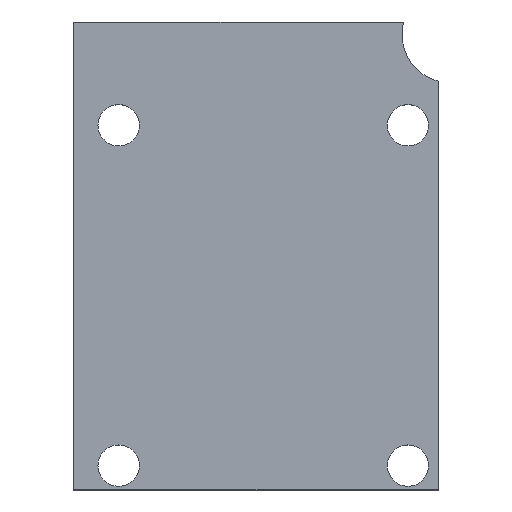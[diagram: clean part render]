
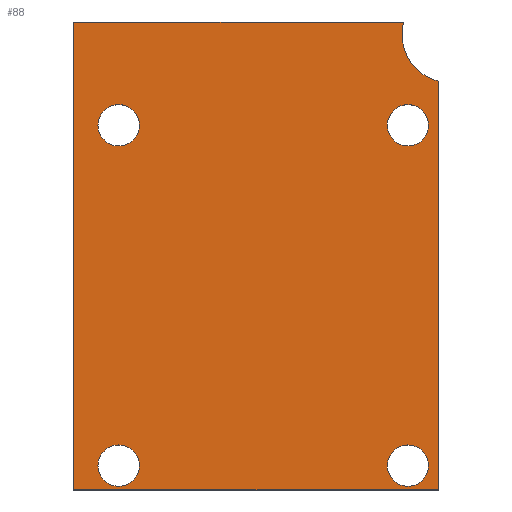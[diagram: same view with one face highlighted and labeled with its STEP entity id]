
A CAD part, top view. The second image highlights one B-rep face of the part: STEP entity #88.
In plain terms, the highlighted planar face has unit normal (0, 0, 1).
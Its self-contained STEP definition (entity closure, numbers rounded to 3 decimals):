
#24 = VERTEX_POINT('',#25);
#25 = CARTESIAN_POINT('',(145.5,136.,43.2));
#40 = VERTEX_POINT('',#41);
#41 = CARTESIAN_POINT('',(145.5,174.5,43.2));
#47 = EDGE_CURVE('',#24,#40,#48,.T.);
#48 = LINE('',#49,#50);
#49 = CARTESIAN_POINT('',(145.5,136.,43.2));
#50 = VECTOR('',#51,1.);
#51 = DIRECTION('',(-0.,1.,0.));
#70 = EDGE_CURVE('',#24,#71,#73,.T.);
#71 = VERTEX_POINT('',#72);
#72 = CARTESIAN_POINT('',(175.5,136.,43.2));
#73 = LINE('',#74,#75);
#74 = CARTESIAN_POINT('',(145.5,136.,43.2));
#75 = VECTOR('',#76,1.);
#76 = DIRECTION('',(1.,0.,-0.));
#88 = ADVANCED_FACE('',(#89,#116,#127,#138,#149),#160,.T.);
#89 = FACE_BOUND('',#90,.T.);
#90 = EDGE_LOOP('',(#91,#99,#100,#101,#109));
#91 = ORIENTED_EDGE('',*,*,#92,.F.);
#92 = EDGE_CURVE('',#40,#93,#95,.T.);
#93 = VERTEX_POINT('',#94);
#94 = CARTESIAN_POINT('',(172.627,174.5,43.2));
#95 = LINE('',#96,#97);
#96 = CARTESIAN_POINT('',(145.5,174.5,43.2));
#97 = VECTOR('',#98,1.);
#98 = DIRECTION('',(1.,0.,-0.));
#99 = ORIENTED_EDGE('',*,*,#47,.F.);
#100 = ORIENTED_EDGE('',*,*,#70,.T.);
#101 = ORIENTED_EDGE('',*,*,#102,.T.);
#102 = EDGE_CURVE('',#71,#103,#105,.T.);
#103 = VERTEX_POINT('',#104);
#104 = CARTESIAN_POINT('',(175.5,169.627,43.2));
#105 = LINE('',#106,#107);
#106 = CARTESIAN_POINT('',(175.5,136.,43.2));
#107 = VECTOR('',#108,1.);
#108 = DIRECTION('',(-0.,1.,0.));
#109 = ORIENTED_EDGE('',*,*,#110,.F.);
#110 = EDGE_CURVE('',#93,#103,#111,.T.);
#111 = CIRCLE('',#112,4.);
#112 = AXIS2_PLACEMENT_3D('',#113,#114,#115);
#113 = CARTESIAN_POINT('',(176.5,173.5,43.2));
#114 = DIRECTION('',(0.,0.,1.));
#115 = DIRECTION('',(1.,0.,-0.));
#116 = FACE_BOUND('',#117,.T.);
#117 = EDGE_LOOP('',(#118));
#118 = ORIENTED_EDGE('',*,*,#119,.F.);
#119 = EDGE_CURVE('',#120,#120,#122,.T.);
#120 = VERTEX_POINT('',#121);
#121 = CARTESIAN_POINT('',(150.9,138.,43.2));
#122 = CIRCLE('',#123,1.7);
#123 = AXIS2_PLACEMENT_3D('',#124,#125,#126);
#124 = CARTESIAN_POINT('',(149.2,138.,43.2));
#125 = DIRECTION('',(0.,0.,1.));
#126 = DIRECTION('',(1.,0.,-0.));
#127 = FACE_BOUND('',#128,.T.);
#128 = EDGE_LOOP('',(#129));
#129 = ORIENTED_EDGE('',*,*,#130,.F.);
#130 = EDGE_CURVE('',#131,#131,#133,.T.);
#131 = VERTEX_POINT('',#132);
#132 = CARTESIAN_POINT('',(174.7,138.,43.2));
#133 = CIRCLE('',#134,1.7);
#134 = AXIS2_PLACEMENT_3D('',#135,#136,#137);
#135 = CARTESIAN_POINT('',(173.,138.,43.2));
#136 = DIRECTION('',(0.,0.,1.));
#137 = DIRECTION('',(1.,0.,-0.));
#138 = FACE_BOUND('',#139,.T.);
#139 = EDGE_LOOP('',(#140));
#140 = ORIENTED_EDGE('',*,*,#141,.F.);
#141 = EDGE_CURVE('',#142,#142,#144,.T.);
#142 = VERTEX_POINT('',#143);
#143 = CARTESIAN_POINT('',(150.9,166.,43.2));
#144 = CIRCLE('',#145,1.7);
#145 = AXIS2_PLACEMENT_3D('',#146,#147,#148);
#146 = CARTESIAN_POINT('',(149.2,166.,43.2));
#147 = DIRECTION('',(0.,0.,1.));
#148 = DIRECTION('',(1.,0.,-0.));
#149 = FACE_BOUND('',#150,.T.);
#150 = EDGE_LOOP('',(#151));
#151 = ORIENTED_EDGE('',*,*,#152,.F.);
#152 = EDGE_CURVE('',#153,#153,#155,.T.);
#153 = VERTEX_POINT('',#154);
#154 = CARTESIAN_POINT('',(174.7,166.,43.2));
#155 = CIRCLE('',#156,1.7);
#156 = AXIS2_PLACEMENT_3D('',#157,#158,#159);
#157 = CARTESIAN_POINT('',(173.,166.,43.2));
#158 = DIRECTION('',(0.,0.,1.));
#159 = DIRECTION('',(1.,0.,-0.));
#160 = PLANE('',#161);
#161 = AXIS2_PLACEMENT_3D('',#162,#163,#164);
#162 = CARTESIAN_POINT('',(145.5,136.,43.2));
#163 = DIRECTION('',(0.,0.,1.));
#164 = DIRECTION('',(1.,0.,-0.));
